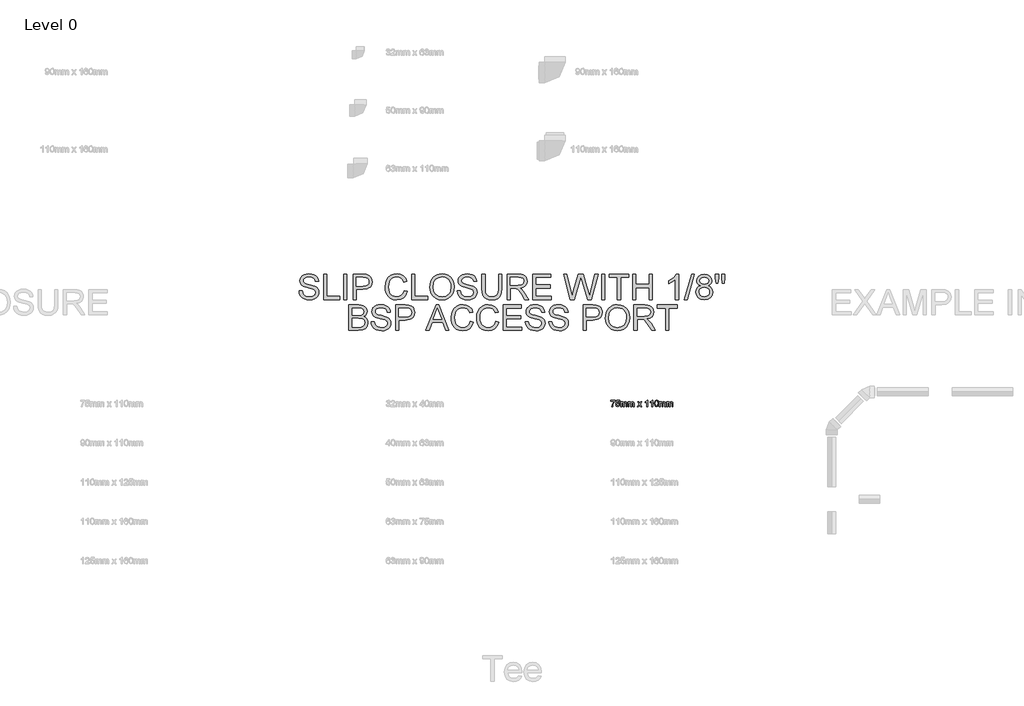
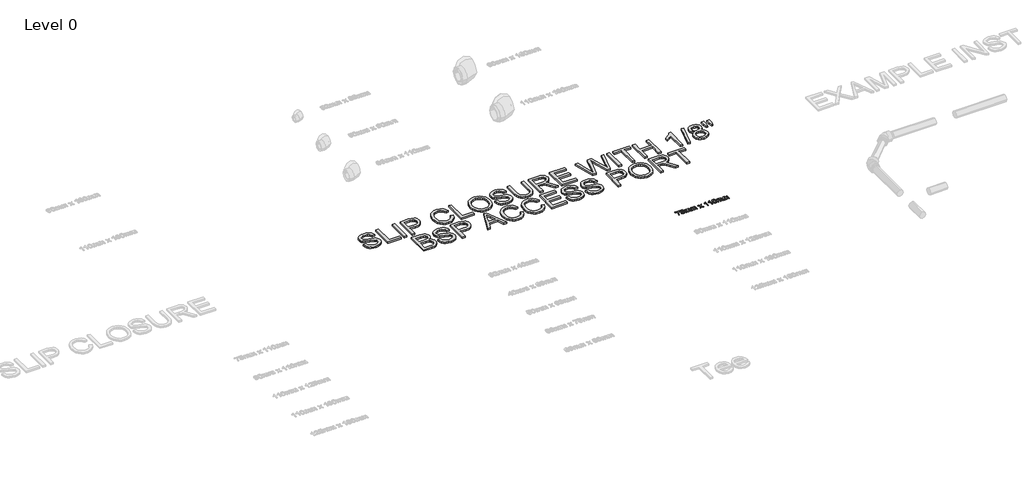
# One storey, part 14 of 21: 2 proxies.
"""IFC4 building model written with IfcOpenShell, lengths in millimetres."""

from ifc_helpers import new_model, si_unit, origin, origin_with_axes, place, context, project, spatial, polyline, outline, extrude, element, save

model = new_model("IFC4")

# Units and contexts
model_context = context("Model", 3, world=origin())
ifc_project = project(units=[si_unit("LENGTHUNIT", "METRE", prefix="MILLI")], contexts=[model_context])

# Site, building, storey
site = spatial("IfcSite", under=ifc_project)
building = spatial("IfcBuilding", under=site)
storey = spatial("IfcBuildingStorey", under=building, Name="Level 0", Elevation=0.0)

# Proxies
placement = place(None, origin())
element("IfcBuildingElementProxy", 1, Name="200mm Arial", ObjectType="200mm Arial", at=placement, inside=storey, context=model_context, shape_type="SweptSolid", body=[
    extrude(outline(polyline([(-3927.1502832, -4262.172732), (-3902.0362057, -4262.172732), (-3893.9428018, -4287.311335), (-3885.8126097, -4296.2018166), (-3874.1752759, -4303.2038372), (-3859.9505054, -4307.7471799), (-3844.0580032, -4309.2616274), (-3817.8157543, -4304.6753652), (-3800.868657, -4292.0692755), (-3795.3013762, -4275.2202801), (-3799.4707054, -4259.5485071), (-3805.8228012, -4253.3496955), (-3816.54043, -4248.1441653), (-3853.1079003, -4238.5547079), (-3892.4712738, -4226.1693474), (-3904.9731303, -4217.7203243), (-3913.832955, -4207.4809421), (-3919.1120616, -4195.67193), (-3920.8717638, -4182.5140173), (-3918.6951287, -4167.8048689), (-3912.1652233, -4154.0890018), (-3901.4537259, -4142.4639308), (-3886.7323147, -4134.0271704), (-3869.0617162, -4128.8952165), (-3849.5026568, -4127.1845653), (-3828.3126539, -4128.9749243), (-3809.7714013, -4134.3460014), (-3794.5410867, -4143.187432), (-3783.2838976, -4155.3888516), (-3776.1592497, -4170.1899705), (-3773.3265583, -4186.8304994), (-3798.4406358, -4186.8304994), (-3803.0514235, -4171.8454395), (-3812.6654063, -4161.0297088), (-3827.6872545, -4154.4814093), (-3848.5216381, -4152.2986428), (-3869.8465311, -4154.4568838), (-3884.4759718, -4160.9316069), (-3892.9372577, -4170.4597506), (-3895.7576863, -4181.7782533), (-3893.7588608, -4191.4290243), (-3887.7623843, -4199.1913344), (-3873.5866647, -4206.1320414), (-3846.7558045, -4213.2199012), (-3802.3156595, -4225.8259909), (-3787.9989185, -4234.9372016), (-3778.0109224, -4246.182128), (-3772.1432046, -4259.4381425), (-3770.1872986, -4274.582618), (-3772.4375102, -4290.0643186), (-3779.1881448, -4304.6263143), (-3790.163291, -4317.1588276), (-3805.0870372, -4326.5520812), (-3823.0335472, -4332.419799), (-3843.0769846, -4334.3757049), (-3867.6821587, -4332.2665148), (-3887.9340625, -4325.9389445), (-3904.065688, -4315.3684685), (-3916.3100271, -4300.5305614), (-3924.1704391, -4282.4552927), (-3927.1502832, -4262.172732)])), origin_with_axes(), (0.0, 0.0, 1.0), 15.0),
    extrude(outline(polyline([(-3732.5161823, -4331.2364452), (-3732.5161823, -4130.3238249), (-3707.4021048, -4130.3238249), (-3707.4021048, -4306.1223677), (-3606.9457946, -4306.1223677), (-3606.9457946, -4331.2364452), (-3732.5161823, -4331.2364452)])), origin_with_axes(), (0.0, 0.0, 1.0), 15.0),
    extrude(outline(polyline([(-3575.5531977, -4331.2364452), (-3575.5531977, -4130.3238249), (-3550.4391202, -4130.3238249), (-3550.4391202, -4331.2364452), (-3575.5531977, -4331.2364452)])), origin_with_axes(), (0.0, 0.0, 1.0), 15.0),
    extrude(outline(polyline([(-3500.2109651, -4331.2364452), (-3500.2109651, -4130.3238249), (-3425.7516493, -4130.3238249), (-3395.7324785, -4132.2368113), (-3371.3296394, -4141.6300649), (-3362.457552, -4149.9564608), (-3355.5107137, -4161.0542343), (-3351.0225533, -4174.1447019), (-3349.5264999, -4188.4491802), (-3353.5670704, -4212.1285179), (-3365.6887822, -4231.8592556), (-3375.3962683, -4239.6276971), (-3388.3564445, -4245.1765838), (-3424.0348666, -4249.6156932), (-3475.0968875, -4249.6156932), (-3475.0968875, -4331.2364452), (-3500.2109651, -4331.2364452)]), holes=[polyline([(-3475.0968875, -4224.5016157), (-3422.5633386, -4224.5016157), (-3400.2942152, -4222.1962219), (-3385.5789354, -4215.2800404), (-3377.3751669, -4204.1822668), (-3374.6405774, -4189.332097), (-3376.2531268, -4178.0503825), (-3381.090775, -4168.5345015), (-3388.5526482, -4161.3730653), (-3398.0378723, -4157.1546851), (-3423.1519498, -4155.4379025), (-3475.0968875, -4155.4379025), (-3475.0968875, -4224.5016157)])]), origin_with_axes(), (0.0, 0.0, 1.0), 15.0),
    extrude(outline(polyline([(-3095.2464648, -4259.8182872), (-3070.1323873, -4266.2930104), (-3081.7206701, -4295.5580231), (-3099.9063034, -4316.9380984), (-3123.7941076, -4330.0163033), (-3152.4889032, -4334.3757049), (-3181.6190259, -4331.0770297), (-3204.752672, -4321.181004), (-3222.4845842, -4305.0309845), (-3235.409505, -4282.9703275), (-3243.3005738, -4257.0346468), (-3245.93093, -4229.2595562), (-3242.9572172, -4199.9638866), (-3234.0360788, -4174.6658681), (-3219.6334987, -4154.1687096), (-3200.2154608, -4139.2756202), (-3177.1860479, -4130.207329), (-3151.949343, -4127.1845653), (-3124.4133756, -4131.0963771), (-3101.6476115, -4142.8318128), (-3084.3632891, -4161.6673709), (-3073.271647, -4186.8795503), (-3098.3857245, -4192.8637641), (-3107.092265, -4174.5493721), (-3118.9871162, -4161.986202), (-3134.2174308, -4154.7205326), (-3152.9303616, -4152.2986428), (-3174.5005093, -4154.9841814), (-3192.2201587, -4163.0407971), (-3205.6662456, -4175.6223613), (-3214.4157058, -4191.8827455), (-3219.2165658, -4210.2645825), (-3220.8168525, -4229.2105052), (-3218.9222602, -4252.4115964), (-3213.2384834, -4272.4734279), (-3203.5509242, -4288.6295788), (-3189.6449848, -4300.1136285), (-3172.973799, -4306.9746277), (-3154.9905008, -4309.2616274), (-3134.0273585, -4306.1468932), (-3116.5590951, -4296.8026905), (-3103.3705255, -4281.3271212), (-3095.2464648, -4259.8182872)])), origin_with_axes(), (0.0, 0.0, 1.0), 15.0),
    extrude(outline(polyline([(-3035.6005306, -4331.2364452), (-3035.6005306, -4130.3238249), (-3010.4864531, -4130.3238249), (-3010.4864531, -4306.1223677), (-2910.030143, -4306.1223677), (-2910.030143, -4331.2364452), (-3035.6005306, -4331.2364452)])), origin_with_axes(), (0.0, 0.0, 1.0), 15.0),
    extrude(outline(polyline([(-2891.1945848, -4233.4288855), (-2889.5207217, -4209.862978), (-2884.4991325, -4189.0010032), (-2876.1298171, -4170.842961), (-2864.4127756, -4155.3888516), (-2850.0500493, -4143.0494763), (-2833.7436799, -4134.2356368), (-2815.4936672, -4128.9473331), (-2795.3000114, -4127.1845653), (-2768.9473978, -4130.4955032), (-2745.317111, -4140.4283171), (-2725.6967379, -4156.2840311), (-2711.3738656, -4177.3636694), (-2702.6182741, -4202.6494252), (-2699.6997436, -4231.1234916), (-2702.7715582, -4259.9777028), (-2711.9870022, -4285.6190778), (-2726.8371721, -4306.7355044), (-2746.8131644, -4322.0148699), (-2770.2411162, -4331.2854962), (-2795.4471642, -4334.3757049), (-2822.204448, -4330.9605337), (-2845.9696249, -4320.7150202), (-2865.540947, -4304.5650006), (-2879.7166666, -4283.4363113), (-2888.3251052, -4259.1254428), (-2891.1945848, -4233.4288855)]), holes=[polyline([(-2866.0805073, -4233.6741401), (-2861.058918, -4265.1035252), (-2845.9941503, -4289.0526431), (-2823.3510135, -4304.2093813), (-2795.594317, -4309.2616274), (-2767.4329503, -4304.1603304), (-2744.7530253, -4288.8564394), (-2736.0296234, -4277.5839219), (-2729.7986222, -4264.1715575), (-2724.8138211, -4230.9272879), (-2726.9475367, -4208.6949527), (-2733.3486834, -4189.4792498), (-2743.8517144, -4173.7645572), (-2758.2910827, -4162.0352529), (-2775.7102952, -4154.7327953), (-2795.1528586, -4152.2986428), (-2822.1676598, -4156.9891382), (-2845.135759, -4171.0606245), (-2854.2990864, -4182.0097124), (-2860.8443202, -4196.0949943), (-2866.0805073, -4233.6741401)])]), origin_with_axes(), (0.0, 0.0, 1.0), 15.0),
    extrude(outline(polyline([(-2674.585666, -4262.172732), (-2649.4715885, -4262.172732), (-2641.3781846, -4287.311335), (-2633.2479925, -4296.2018166), (-2621.6106587, -4303.2038372), (-2607.3858883, -4307.7471799), (-2591.4933861, -4309.2616274), (-2565.2511371, -4304.6753652), (-2548.3040398, -4292.0692755), (-2542.736759, -4275.2202801), (-2546.9060883, -4259.5485071), (-2553.258184, -4253.3496955), (-2563.9758128, -4248.1441653), (-2600.5432831, -4238.5547079), (-2639.9066566, -4226.1693474), (-2652.4085131, -4217.7203243), (-2661.2683378, -4207.4809421), (-2666.5474445, -4195.67193), (-2668.3071467, -4182.5140173), (-2666.1305115, -4167.8048689), (-2659.6006061, -4154.0890018), (-2648.8891087, -4142.4639308), (-2634.1676975, -4134.0271704), (-2616.497099, -4128.8952165), (-2596.9380396, -4127.1845653), (-2575.7480367, -4128.9749243), (-2557.2067841, -4134.3460014), (-2541.9764695, -4143.187432), (-2530.7192805, -4155.3888516), (-2523.5946325, -4170.1899705), (-2520.7619411, -4186.8304994), (-2545.8760187, -4186.8304994), (-2550.4868063, -4171.8454395), (-2560.1007891, -4161.0297088), (-2575.1226373, -4154.4814093), (-2595.9570209, -4152.2986428), (-2617.2819139, -4154.4568838), (-2631.9113546, -4160.9316069), (-2640.3726405, -4170.4597506), (-2643.1930691, -4181.7782533), (-2641.1942436, -4191.4290243), (-2635.1977671, -4199.1913344), (-2621.0220475, -4206.1320414), (-2594.1911874, -4213.2199012), (-2549.7510423, -4225.8259909), (-2535.4343014, -4234.9372016), (-2525.4463052, -4246.182128), (-2519.5785874, -4259.4381425), (-2517.6226814, -4274.582618), (-2519.872893, -4290.0643186), (-2526.6235276, -4304.6263143), (-2537.5986738, -4317.1588276), (-2552.52242, -4326.5520812), (-2570.46893, -4332.419799), (-2590.5123674, -4334.3757049), (-2615.1175415, -4332.2665148), (-2635.3694454, -4325.9389445), (-2651.5010708, -4315.3684685), (-2663.7454099, -4300.5305614), (-2671.6058219, -4282.4552927), (-2674.585666, -4262.172732)])), origin_with_axes(), (0.0, 0.0, 1.0), 15.0),
    extrude(outline(polyline([(-2348.1026581, -4130.3238249), (-2322.9885805, -4130.3238249), (-2322.9885805, -4246.2311789), (-2324.6931004, -4273.3747388), (-2329.8066602, -4294.2765675), (-2339.3593293, -4310.4020616), (-2354.3811774, -4323.2166178), (-2374.9089928, -4331.5859331), (-2400.9795635, -4334.3757049), (-2426.4799171, -4331.9476838), (-2446.866711, -4324.6636203), (-2462.1460766, -4312.7749005), (-2472.3241451, -4296.5329104), (-2478.0447101, -4274.7481649), (-2479.9515651, -4246.2311789), (-2479.9515651, -4130.3238249), (-2454.8374876, -4130.3238249), (-2454.8374876, -4245.3482621), (-2453.5989515, -4267.9178225), (-2449.8833434, -4283.6325151), (-2443.1511029, -4294.5156908), (-2432.8626697, -4302.5907006), (-2419.4472397, -4307.5938957), (-2403.3340083, -4309.2616274), (-2377.7907351, -4305.9629522), (-2360.8068496, -4296.0669265), (-2351.278706, -4276.78991), (-2348.1026581, -4245.3482621), (-2348.1026581, -4130.3238249)])), origin_with_axes(), (0.0, 0.0, 1.0), 15.0),
    extrude(outline(polyline([(-2279.0389448, -4331.2364452), (-2279.0389448, -4130.3238249), (-2192.4640486, -4130.3238249), (-2169.1955124, -4131.678857), (-2152.2668093, -4135.743953), (-2139.8937115, -4143.2487457), (-2130.2919914, -4154.9228677), (-2124.129968, -4169.3990242), (-2122.0759602, -4185.3099205), (-2125.4788687, -4205.1019718), (-2135.687594, -4221.5095088), (-2153.0087046, -4233.5392501), (-2177.7487688, -4240.1979142), (-2163.4749474, -4250.9400684), (-2143.1188103, -4276.78991), (-2109.6170233, -4331.2364452), (-2138.8023283, -4331.2364452), (-2164.9464754, -4289.5922034), (-2183.8310845, -4262.0255792), (-2197.0993618, -4249.0025566), (-2209.0432639, -4244.2200907), (-2223.6113909, -4243.3371739), (-2253.9248673, -4243.3371739), (-2253.9248673, -4331.2364452), (-2279.0389448, -4331.2364452)]), holes=[polyline([(-2253.9248673, -4218.2230963), (-2197.7124984, -4218.2230963), (-2169.0422283, -4214.6669037), (-2159.6121865, -4210.0438533), (-2152.7573186, -4203.2870873), (-2147.1900378, -4186.2418882), (-2149.8449195, -4173.9914178), (-2157.8095647, -4164.1199176), (-2171.513169, -4157.6084063), (-2191.3849281, -4155.4379025), (-2253.9248673, -4155.4379025), (-2253.9248673, -4218.2230963)])]), origin_with_axes(), (0.0, 0.0, 1.0), 15.0),
    extrude(outline(polyline([(-2078.1263245, -4331.2364452), (-2078.1263245, -4130.3238249), (-1933.7203787, -4130.3238249), (-1933.7203787, -4155.4379025), (-2053.012247, -4155.4379025), (-2053.012247, -4215.0838366), (-1939.9988981, -4215.0838366), (-1939.9988981, -4240.1979142), (-2053.012247, -4240.1979142), (-2053.012247, -4306.1223677), (-1930.581119, -4306.1223677), (-1930.581119, -4331.2364452), (-2078.1263245, -4331.2364452)])), origin_with_axes(), (0.0, 0.0, 1.0), 15.0),
    extrude(outline(polyline([(-1778.4741767, -4331.2364452), (-1833.2640685, -4130.3238249), (-1807.3651761, -4130.3238249), (-1775.5801717, -4262.3689357), (-1765.7699852, -4303.1302608), (-1755.2730856, -4267.0778253), (-1715.4437282, -4130.3238249), (-1678.1159684, -4130.3238249), (-1649.1759182, -4229.4557599), (-1627.6425587, -4303.1302608), (-1618.1266778, -4263.5461581), (-1586.0473678, -4130.3238249), (-1560.1484753, -4130.3238249), (-1614.9874181, -4331.2364452), (-1641.8182783, -4331.2364452), (-1689.9862942, -4176.2354979), (-1696.7062719, -4154.6040366), (-1704.2601156, -4180.6500819), (-1748.1607003, -4331.2364452), (-1778.4741767, -4331.2364452)])), origin_with_axes(), (0.0, 0.0, 1.0), 15.0),
    extrude(outline(polyline([(-1531.8951381, -4331.2364452), (-1531.8951381, -4130.3238249), (-1506.7810606, -4130.3238249), (-1506.7810606, -4331.2364452), (-1531.8951381, -4331.2364452)])), origin_with_axes(), (0.0, 0.0, 1.0), 15.0),
    extrude(outline(polyline([(-1406.3247504, -4331.2364452), (-1406.3247504, -4155.4379025), (-1472.2492039, -4155.4379025), (-1472.2492039, -4130.3238249), (-1315.2862193, -4130.3238249), (-1315.2862193, -4155.4379025), (-1381.2106729, -4155.4379025), (-1381.2106729, -4331.2364452), (-1406.3247504, -4331.2364452)])), origin_with_axes(), (0.0, 0.0, 1.0), 15.0),
    extrude(outline(polyline([(-1287.0328821, -4331.2364452), (-1287.0328821, -4130.3238249), (-1261.9188046, -4130.3238249), (-1261.9188046, -4211.9445769), (-1155.183975, -4211.9445769), (-1155.183975, -4130.3238249), (-1130.0698975, -4130.3238249), (-1130.0698975, -4331.2364452), (-1155.183975, -4331.2364452), (-1155.183975, -4237.0586545), (-1261.9188046, -4237.0586545), (-1261.9188046, -4331.2364452), (-1287.0328821, -4331.2364452)])), origin_with_axes(), (0.0, 0.0, 1.0), 15.0),
    extrude(outline(polyline([(-922.8787578, -4331.2364452), (-947.9928353, -4331.2364452), (-947.9928353, -4174.6658681), (-971.7825377, -4191.6129653), (-998.2209904, -4204.2926314), (-998.2209904, -4180.55198), (-961.4082654, -4157.0565833), (-947.937653, -4143.4817376), (-939.0655656, -4130.3238249), (-922.8787578, -4130.3238249), (-922.8787578, -4331.2364452)])), origin_with_axes(), (0.0, 0.0, 1.0), 15.0),
    extrude(outline(polyline([(-875.7898624, -4331.2364452), (-819.283188, -4130.3238249), (-796.6216571, -4130.3238249), (-853.1283315, -4331.2364452), (-875.7898624, -4331.2364452)])), origin_with_axes(), (0.0, 0.0, 1.0), 15.0),
    extrude(outline(polyline([(-748.1593356, -4220.5775411), (-761.6054225, -4213.9556652), (-771.0415957, -4204.9793445), (-776.6150079, -4193.83252), (-778.472812, -4180.6991328), (-774.42611, -4161.066497), (-762.2860042, -4144.842901), (-743.4136578, -4133.953594), (-719.1702343, -4130.3238249), (-694.7796581, -4134.0394331), (-675.6620571, -4145.1862576), (-663.301222, -4161.6673709), (-659.1809437, -4181.3858459), (-661.0142223, -4194.0961688), (-666.5140581, -4205.0529209), (-675.7417648, -4213.9740593), (-688.7586561, -4220.5775411), (-673.3014809, -4228.5421863), (-662.0504232, -4240.2714906), (-655.189424, -4255.2013682), (-652.9024243, -4272.7677335), (-657.4396356, -4296.778165), (-671.0512694, -4316.6192673), (-692.069594, -4329.9365955), (-718.8268778, -4334.3757049), (-745.5841616, -4329.9182014), (-766.6024863, -4316.5456909), (-780.2141201, -4296.5145163), (-784.7513314, -4272.0810204), (-782.3723611, -4253.8340735), (-775.2354504, -4238.8244881), (-763.7084812, -4227.567299), (-748.1593356, -4220.5775411)]), holes=[polyline([(-753.3587344, -4181.4348968), (-751.1330484, -4192.3977803), (-744.4559902, -4201.1533718), (-733.5237635, -4206.8923309), (-718.5325722, -4208.8053173), (-703.8908688, -4206.9045936), (-693.1241891, -4201.2024227), (-686.5023132, -4192.7411368), (-684.2950212, -4182.5630683), (-686.5758896, -4171.9987236), (-693.4184947, -4163.2615262), (-704.3323272, -4157.3938084), (-718.8268778, -4155.4379025), (-733.4133989, -4157.3508889), (-744.3088374, -4163.089848), (-751.0962602, -4171.5020829), (-753.3587344, -4181.4348968)]), polyline([(-759.6372538, -4271.1981036), (-755.4433991, -4290.1072382), (-749.6369949, -4298.2190362), (-740.6054919, -4304.2584323), (-718.6306741, -4309.2616274), (-701.536424, -4306.6312711), (-688.7096051, -4298.7402023), (-680.6897777, -4286.7901689), (-678.0165018, -4271.9829186), (-680.7756168, -4256.9242822), (-689.0529617, -4244.7106), (-702.1740862, -4236.6171961), (-719.4645399, -4233.9193948), (-736.3196667, -4236.5804079), (-749.0177269, -4244.5634472), (-756.9823721, -4256.5441375), (-759.6372538, -4271.1981036)])]), origin_with_axes(), (0.0, 0.0, 1.0), 15.0),
    extrude(outline(polyline([(-574.7152376, -4202.5267979), (-580.6994514, -4163.7275101), (-580.6994514, -4130.3238249), (-555.5853738, -4130.3238249), (-555.5853738, -4163.7275101), (-561.4714857, -4202.5267979), (-574.7152376, -4202.5267979)])), origin_with_axes(), (0.0, 0.0, 1.0), 15.0),
    extrude(outline(polyline([(-624.7962399, -4202.5267979), (-630.9276064, -4163.7275101), (-630.9276064, -4130.3238249), (-605.8135289, -4130.3238249), (-605.8135289, -4163.7275101), (-611.3072334, -4202.5267979), (-624.7962399, -4202.5267979)])), origin_with_axes(), (0.0, 0.0, 1.0), 15.0),
    extrude(outline(polyline([(-3533.1731919, -4575.1860809), (-3533.1731919, -4374.2734606), (-3456.5065841, -4374.2734606), (-3435.4208144, -4375.75112), (-3418.9580951, -4380.184098), (-3406.3397427, -4387.6827594), (-3396.7870735, -4398.3574686), (-3390.7722029, -4410.9145074), (-3388.767246, -4424.0601573), (-3390.4533718, -4436.1573436), (-3395.5117493, -4447.5310286), (-3403.9791665, -4457.4822366), (-3415.8924118, -4465.3119917), (-3401.6615099, -4472.743208), (-3391.1462163, -4484.049448), (-3384.653099, -4498.4826849), (-3382.4887266, -4515.2948921), (-3388.399364, -4542.2974306), (-3403.0410674, -4561.5253962), (-3424.8932579, -4571.7279902), (-3457.0951953, -4575.1860809), (-3533.1731919, -4575.1860809)]), holes=[polyline([(-3508.0591143, -4455.8942126), (-3462.1964923, -4455.8942126), (-3435.414683, -4453.7359716), (-3419.3014516, -4444.4408198), (-3413.8813236, -4428.0823338), (-3418.9335696, -4411.6993223), (-3433.4035948, -4402.0117631), (-3465.6791085, -4399.3875382), (-3508.0591143, -4399.3875382), (-3508.0591143, -4455.8942126)]), polyline([(-3508.0591143, -4550.0720034), (-3456.555635, -4550.0720034), (-3437.9162806, -4549.0909847), (-3422.1464057, -4543.6218057), (-3411.698557, -4532.4627186), (-3407.6028042, -4515.5401468), (-3412.4097956, -4496.0178756), (-3418.7067091, -4488.9606726), (-3427.9834667, -4484.3682791), (-3459.0081816, -4481.0082902), (-3508.0591143, -4481.0082902), (-3508.0591143, -4550.0720034)])]), origin_with_axes(), (0.0, 0.0, 1.0), 15.0),
    extrude(outline(polyline([(-3357.3746491, -4506.1223677), (-3332.2605716, -4506.1223677), (-3324.1671677, -4531.2609707), (-3316.0369756, -4540.1514523), (-3304.3996418, -4547.1534729), (-3290.1748713, -4551.6968155), (-3274.2823691, -4553.2112631), (-3248.0401201, -4548.6250009), (-3231.0930229, -4536.0189112), (-3225.525742, -4519.1699158), (-3229.6950713, -4503.4981428), (-3236.0471671, -4497.2993312), (-3246.7647959, -4492.093801), (-3283.3322662, -4482.5043436), (-3322.6956397, -4470.1189831), (-3335.1974962, -4461.66996), (-3344.0573209, -4451.4305778), (-3349.3364275, -4439.6215657), (-3351.0961297, -4426.463653), (-3348.9194946, -4411.7545046), (-3342.3895892, -4398.0386375), (-3331.6780917, -4386.4135665), (-3316.9566806, -4377.9768061), (-3299.2860821, -4372.8448522), (-3279.7270226, -4371.1342009), (-3258.5370197, -4372.92456), (-3239.9957672, -4378.2956371), (-3224.7654526, -4387.1370677), (-3213.5082635, -4399.3384872), (-3206.3836155, -4414.1396062), (-3203.5509242, -4430.7801351), (-3228.6650017, -4430.7801351), (-3233.2757894, -4415.7950752), (-3242.8897722, -4404.9793445), (-3257.9116203, -4398.431045), (-3278.746004, -4396.2482785), (-3300.070897, -4398.4065195), (-3314.7003377, -4404.8812426), (-3323.1616235, -4414.4093863), (-3325.9820522, -4425.727889), (-3323.9832267, -4435.37866), (-3317.9867501, -4443.1409701), (-3303.8110306, -4450.0816771), (-3276.9801704, -4457.1695369), (-3232.5400254, -4469.7756266), (-3218.2232844, -4478.8868373), (-3208.2352882, -4490.1317637), (-3202.3675704, -4503.3877782), (-3200.4116645, -4518.5322537), (-3202.661876, -4534.0139543), (-3209.4125106, -4548.57595), (-3220.3876568, -4561.1084633), (-3235.3114031, -4570.5017169), (-3253.2579131, -4576.3694347), (-3273.3013505, -4578.3253406), (-3297.9065246, -4576.2161505), (-3318.1584284, -4569.8885802), (-3334.2900539, -4559.3181042), (-3346.534393, -4544.4801971), (-3354.3948049, -4526.4049284), (-3357.3746491, -4506.1223677)])), origin_with_axes(), (0.0, 0.0, 1.0), 15.0),
    extrude(outline(polyline([(-3162.7405482, -4575.1860809), (-3162.7405482, -4374.2734606), (-3088.2812324, -4374.2734606), (-3058.2620615, -4376.186447), (-3033.8592225, -4385.5797006), (-3024.9871351, -4393.9060964), (-3018.0402967, -4405.00387), (-3013.5521364, -4418.0943376), (-3012.056083, -4432.3988159), (-3016.0966535, -4456.0781536), (-3028.2183653, -4475.8088913), (-3037.9258514, -4483.5773328), (-3050.8860275, -4489.1262195), (-3086.5644497, -4493.5653289), (-3137.6264706, -4493.5653289), (-3137.6264706, -4575.1860809), (-3162.7405482, -4575.1860809)]), holes=[polyline([(-3137.6264706, -4468.4512514), (-3085.0929217, -4468.4512514), (-3062.8237983, -4466.1458576), (-3048.1085185, -4459.2296761), (-3039.90475, -4448.1319025), (-3037.1701605, -4433.2817327), (-3038.7827099, -4422.0000181), (-3043.6203581, -4412.4841372), (-3051.0822313, -4405.322701), (-3060.5674554, -4401.1043208), (-3085.6815329, -4399.3875382), (-3137.6264706, -4399.3875382), (-3137.6264706, -4468.4512514)])]), origin_with_axes(), (0.0, 0.0, 1.0), 15.0),
    extrude(outline(polyline([(-2922.4400289, -4575.1860809), (-2842.241754, -4374.2734606), (-2820.8555473, -4374.2734606), (-2740.6572724, -4575.1860809), (-2767.193827, -4575.1860809), (-2790.1987144, -4512.4008871), (-2872.9476378, -4512.4008871), (-2895.9034743, -4575.1860809), (-2922.4400289, -4575.1860809)]), holes=[polyline([(-2863.7260625, -4487.2868096), (-2799.3712388, -4487.2868096), (-2817.471033, -4437.8925203), (-2831.5486507, -4399.3875382), (-2844.0566385, -4433.5760383), (-2863.7260625, -4487.2868096)])]), origin_with_axes(), (0.0, 0.0, 1.0), 15.0),
    extrude(outline(polyline([(-2572.559726, -4503.7679229), (-2547.4456485, -4510.2426461), (-2559.0339314, -4539.5076588), (-2577.2195647, -4560.8877341), (-2601.1073689, -4573.965939), (-2629.8021645, -4578.3253406), (-2658.9322872, -4575.0266654), (-2682.0659333, -4565.1306397), (-2699.7978454, -4548.9806201), (-2712.7227662, -4526.9199632), (-2720.613835, -4500.9842825), (-2723.2441913, -4473.2091919), (-2720.2704785, -4443.9135223), (-2711.3493401, -4418.6155038), (-2696.94676, -4398.1183453), (-2677.528722, -4383.2252559), (-2654.4993091, -4374.1569647), (-2629.2626042, -4371.1342009), (-2601.7266369, -4375.0460128), (-2578.9608728, -4386.7814485), (-2561.6765504, -4405.6170066), (-2550.5849082, -4430.829186), (-2575.6989857, -4436.8133998), (-2584.4055263, -4418.4990078), (-2596.3003775, -4405.9358377), (-2611.5306921, -4398.6701683), (-2630.2436229, -4396.2482785), (-2651.8137705, -4398.933817), (-2669.53342, -4406.9904327), (-2682.9795069, -4419.571997), (-2691.728967, -4435.8323812), (-2696.5298271, -4454.2142182), (-2698.1301137, -4473.1601409), (-2696.2355215, -4496.3612321), (-2690.5517446, -4516.4230636), (-2680.8641854, -4532.5792145), (-2666.958246, -4544.0632641), (-2650.2870603, -4550.9242634), (-2632.3037621, -4553.2112631), (-2611.3406197, -4550.0965289), (-2593.8723563, -4540.7523262), (-2580.6837868, -4525.2767569), (-2572.559726, -4503.7679229)])), origin_with_axes(), (0.0, 0.0, 1.0), 15.0),
    extrude(outline(polyline([(-2371.6471057, -4503.7679229), (-2346.5330282, -4510.2426461), (-2358.1213111, -4539.5076588), (-2376.3069444, -4560.8877341), (-2400.1947486, -4573.965939), (-2428.8895442, -4578.3253406), (-2458.0196669, -4575.0266654), (-2481.153313, -4565.1306397), (-2498.8852251, -4548.9806201), (-2511.8101459, -4526.9199632), (-2519.7012147, -4500.9842825), (-2522.331571, -4473.2091919), (-2519.3578582, -4443.9135223), (-2510.4367198, -4418.6155038), (-2496.0341397, -4398.1183453), (-2476.6161017, -4383.2252559), (-2453.5866888, -4374.1569647), (-2428.3499839, -4371.1342009), (-2400.8140166, -4375.0460128), (-2378.0482525, -4386.7814485), (-2360.7639301, -4405.6170066), (-2349.6722879, -4430.829186), (-2374.7863654, -4436.8133998), (-2383.492906, -4418.4990078), (-2395.3877572, -4405.9358377), (-2410.6180718, -4398.6701683), (-2429.3310026, -4396.2482785), (-2450.9011502, -4398.933817), (-2468.6207997, -4406.9904327), (-2482.0668866, -4419.571997), (-2490.8163467, -4435.8323812), (-2495.6172068, -4454.2142182), (-2497.2174934, -4473.1601409), (-2495.3229012, -4496.3612321), (-2489.6391243, -4516.4230636), (-2479.9515651, -4532.5792145), (-2466.0456257, -4544.0632641), (-2449.37444, -4550.9242634), (-2431.3911418, -4553.2112631), (-2410.4279994, -4550.0965289), (-2392.959736, -4540.7523262), (-2379.7711665, -4525.2767569), (-2371.6471057, -4503.7679229)])), origin_with_axes(), (0.0, 0.0, 1.0), 15.0),
    extrude(outline(polyline([(-2312.0011716, -4575.1860809), (-2312.0011716, -4374.2734606), (-2167.5952258, -4374.2734606), (-2167.5952258, -4399.3875382), (-2286.8870941, -4399.3875382), (-2286.8870941, -4459.0334723), (-2173.8737451, -4459.0334723), (-2173.8737451, -4484.1475499), (-2286.8870941, -4484.1475499), (-2286.8870941, -4550.0720034), (-2164.4559661, -4550.0720034), (-2164.4559661, -4575.1860809), (-2312.0011716, -4575.1860809)])), origin_with_axes(), (0.0, 0.0, 1.0), 15.0),
    extrude(outline(polyline([(-2136.2026288, -4506.1223677), (-2111.0885513, -4506.1223677), (-2102.9951474, -4531.2609707), (-2094.8649553, -4540.1514523), (-2083.2276215, -4547.1534729), (-2069.0028511, -4551.6968155), (-2053.1103489, -4553.2112631), (-2026.8680999, -4548.6250009), (-2009.9210026, -4536.0189112), (-2004.3537218, -4519.1699158), (-2008.523051, -4503.4981428), (-2014.8751468, -4497.2993312), (-2025.5927756, -4492.093801), (-2062.1602459, -4482.5043436), (-2101.5236194, -4470.1189831), (-2114.0254759, -4461.66996), (-2122.8853006, -4451.4305778), (-2128.1644072, -4439.6215657), (-2129.9241095, -4426.463653), (-2127.7474743, -4411.7545046), (-2121.2175689, -4398.0386375), (-2110.5060715, -4386.4135665), (-2095.7846603, -4377.9768061), (-2078.1140618, -4372.8448522), (-2058.5550024, -4371.1342009), (-2037.3649995, -4372.92456), (-2018.8237469, -4378.2956371), (-2003.5934323, -4387.1370677), (-1992.3362433, -4399.3384872), (-1985.2115953, -4414.1396062), (-1982.3789039, -4430.7801351), (-2007.4929815, -4430.7801351), (-2012.1037691, -4415.7950752), (-2021.7177519, -4404.9793445), (-2036.7396001, -4398.431045), (-2057.5739837, -4396.2482785), (-2078.8988767, -4398.4065195), (-2093.5283174, -4404.8812426), (-2101.9896033, -4414.4093863), (-2104.8100319, -4425.727889), (-2102.8112064, -4435.37866), (-2096.8147299, -4443.1409701), (-2082.6390103, -4450.0816771), (-2055.8081502, -4457.1695369), (-2011.3680051, -4469.7756266), (-1997.0512642, -4478.8868373), (-1987.063268, -4490.1317637), (-1981.1955502, -4503.3877782), (-1979.2396442, -4518.5322537), (-1981.4898558, -4534.0139543), (-1988.2404904, -4548.57595), (-1999.2156366, -4561.1084633), (-2014.1393828, -4570.5017169), (-2032.0858928, -4576.3694347), (-2052.1293302, -4578.3253406), (-2076.7345043, -4576.2161505), (-2096.9864082, -4569.8885802), (-2113.1180336, -4559.3181042), (-2125.3623727, -4544.4801971), (-2133.2227847, -4526.4049284), (-2136.2026288, -4506.1223677)])), origin_with_axes(), (0.0, 0.0, 1.0), 15.0),
    extrude(outline(polyline([(-1950.986307, -4506.1223677), (-1925.8722295, -4506.1223677), (-1917.7788256, -4531.2609707), (-1909.6486335, -4540.1514523), (-1898.0112997, -4547.1534729), (-1883.7865292, -4551.6968155), (-1867.894027, -4553.2112631), (-1841.651778, -4548.6250009), (-1824.7046808, -4536.0189112), (-1819.1373999, -4519.1699158), (-1823.3067292, -4503.4981428), (-1829.658825, -4497.2993312), (-1840.3764538, -4492.093801), (-1876.9439241, -4482.5043436), (-1916.3072976, -4470.1189831), (-1928.8091541, -4461.66996), (-1937.6689788, -4451.4305778), (-1942.9480854, -4439.6215657), (-1944.7077876, -4426.463653), (-1942.5311525, -4411.7545046), (-1936.0012471, -4398.0386375), (-1925.2897496, -4386.4135665), (-1910.5683385, -4377.9768061), (-1892.89774, -4372.8448522), (-1873.3386805, -4371.1342009), (-1852.1486776, -4372.92456), (-1833.6074251, -4378.2956371), (-1818.3771105, -4387.1370677), (-1807.1199214, -4399.3384872), (-1799.9952734, -4414.1396062), (-1797.1625821, -4430.7801351), (-1822.2766596, -4430.7801351), (-1826.8874473, -4415.7950752), (-1836.5014301, -4404.9793445), (-1851.5232782, -4398.431045), (-1872.3576619, -4396.2482785), (-1893.6825549, -4398.4065195), (-1908.3119956, -4404.8812426), (-1916.7732814, -4414.4093863), (-1919.5937101, -4425.727889), (-1917.5948846, -4435.37866), (-1911.598408, -4443.1409701), (-1897.4226885, -4450.0816771), (-1870.5918283, -4457.1695369), (-1826.1516833, -4469.7756266), (-1811.8349423, -4478.8868373), (-1801.8469462, -4490.1317637), (-1795.9792283, -4503.3877782), (-1794.0233224, -4518.5322537), (-1796.2735339, -4534.0139543), (-1803.0241685, -4548.57595), (-1813.9993147, -4561.1084633), (-1828.923061, -4570.5017169), (-1846.869571, -4576.3694347), (-1866.9130084, -4578.3253406), (-1891.5181825, -4576.2161505), (-1911.7700863, -4569.8885802), (-1927.9017118, -4559.3181042), (-1940.1460509, -4544.4801971), (-1948.0064628, -4526.4049284), (-1950.986307, -4506.1223677)])), origin_with_axes(), (0.0, 0.0, 1.0), 15.0),
    extrude(outline(polyline([(-1677.8707138, -4575.1860809), (-1677.8707138, -4374.2734606), (-1603.411398, -4374.2734606), (-1573.3922271, -4376.186447), (-1548.9893881, -4385.5797006), (-1540.1173007, -4393.9060964), (-1533.1704623, -4405.00387), (-1528.682302, -4418.0943376), (-1527.1862486, -4432.3988159), (-1531.2268191, -4456.0781536), (-1543.3485309, -4475.8088913), (-1553.056017, -4483.5773328), (-1566.0161931, -4489.1262195), (-1601.6946153, -4493.5653289), (-1652.7566362, -4493.5653289), (-1652.7566362, -4575.1860809), (-1677.8707138, -4575.1860809)]), holes=[polyline([(-1652.7566362, -4468.4512514), (-1600.2230873, -4468.4512514), (-1577.9539639, -4466.1458576), (-1563.2386841, -4459.2296761), (-1555.0349156, -4448.1319025), (-1552.3003261, -4433.2817327), (-1553.9128755, -4422.0000181), (-1558.7505237, -4412.4841372), (-1566.2123969, -4405.322701), (-1575.697621, -4401.1043208), (-1600.8116985, -4399.3875382), (-1652.7566362, -4399.3875382), (-1652.7566362, -4468.4512514)])]), origin_with_axes(), (0.0, 0.0, 1.0), 15.0),
    extrude(outline(polyline([(-1502.072171, -4477.3785212), (-1500.3983079, -4453.8126137), (-1495.3767187, -4432.9506389), (-1487.0074033, -4414.7925967), (-1475.2903618, -4399.3384872), (-1460.9276355, -4386.999112), (-1444.6212661, -4378.1852725), (-1426.3712535, -4372.8969688), (-1406.1775976, -4371.1342009), (-1379.824984, -4374.4451389), (-1356.1946972, -4384.3779528), (-1336.5743241, -4400.2336668), (-1322.2514518, -4421.3133051), (-1313.4958603, -4446.5990609), (-1310.5773298, -4475.0731273), (-1313.6491445, -4503.9273385), (-1322.8645884, -4529.5687135), (-1337.7147583, -4550.6851401), (-1357.6907506, -4565.9645056), (-1381.1187024, -4575.2351319), (-1406.3247504, -4578.3253406), (-1433.0820342, -4574.9101694), (-1456.8472111, -4564.6646559), (-1476.4185332, -4548.5146363), (-1490.5942528, -4527.385947), (-1499.2026915, -4503.0750785), (-1502.072171, -4477.3785212)]), holes=[polyline([(-1476.9580935, -4477.6237758), (-1471.9365042, -4509.0531609), (-1456.8717365, -4533.0022788), (-1434.2285997, -4548.159017), (-1406.4719032, -4553.2112631), (-1378.3105365, -4548.1099661), (-1355.6306115, -4532.8060751), (-1346.9072097, -4521.5335576), (-1340.6762084, -4508.1211932), (-1335.6914073, -4474.8769236), (-1337.8251229, -4452.6445883), (-1344.2262696, -4433.4288855), (-1354.7293006, -4417.7141929), (-1369.1686689, -4405.9848886), (-1386.5878814, -4398.682431), (-1406.0304448, -4396.2482785), (-1433.045246, -4400.9387739), (-1456.0133452, -4415.0102602), (-1465.1766726, -4425.9593481), (-1471.7219064, -4440.04463), (-1476.9580935, -4477.6237758)])]), origin_with_axes(), (0.0, 0.0, 1.0), 15.0),
    extrude(outline(polyline([(-1276.0454732, -4575.1860809), (-1276.0454732, -4374.2734606), (-1189.470577, -4374.2734606), (-1166.2020408, -4375.6284927), (-1149.2733376, -4379.6935887), (-1136.9002399, -4387.1983814), (-1127.2985198, -4398.8725034), (-1121.1364964, -4413.3486599), (-1119.0824886, -4429.2595562), (-1122.485397, -4449.0516075), (-1132.6941224, -4465.4591445), (-1150.015233, -4477.4888857), (-1174.7552972, -4484.1475499), (-1160.4814758, -4494.8897041), (-1140.1253387, -4520.7395456), (-1106.6235517, -4575.1860809), (-1135.8088566, -4575.1860809), (-1161.9530037, -4533.5418391), (-1180.8376128, -4505.9752149), (-1194.1058901, -4492.9521923), (-1206.0497922, -4488.1697263), (-1220.6179192, -4487.2868096), (-1250.9313956, -4487.2868096), (-1250.9313956, -4575.1860809), (-1276.0454732, -4575.1860809)]), holes=[polyline([(-1250.9313956, -4462.172732), (-1194.7190268, -4462.172732), (-1166.0487566, -4458.6165394), (-1156.6187148, -4453.993489), (-1149.763847, -4447.236723), (-1144.1965661, -4430.1915239), (-1146.8514478, -4417.9410535), (-1154.816093, -4408.0695533), (-1168.5196974, -4401.5580419), (-1188.3914565, -4399.3875382), (-1250.9313956, -4399.3875382), (-1250.9313956, -4462.172732)])]), origin_with_axes(), (0.0, 0.0, 1.0), 15.0),
    extrude(outline(polyline([(-1024.9046978, -4575.1860809), (-1024.9046978, -4399.3875382), (-1090.8291513, -4399.3875382), (-1090.8291513, -4374.2734606), (-933.8661667, -4374.2734606), (-933.8661667, -4399.3875382), (-999.7906203, -4399.3875382), (-999.7906203, -4575.1860809), (-1024.9046978, -4575.1860809)])), origin_with_axes(), (0.0, 0.0, 1.0), 15.0),
])
element("IfcBuildingElementProxy", 2, Name="50mm", ObjectType="50mm", at=placement, inside=storey, context=model_context, shape_type="SweptSolid", body=[
    extrude(outline(polyline([(-1458.2285688, -5135.0464423), (-1458.2285688, -5128.7679229), (-1425.2663421, -5128.7679229), (-1425.2663421, -5133.8446945), (-1434.6166761, -5147.3520951), (-1441.7719809, -5164.5628411), (-1444.1019002, -5178.2112631), (-1450.3804196, -5178.2112631), (-1447.8849534, -5164.0478063), (-1441.0362169, -5148.0388081), (-1431.5448614, -5135.0464423), (-1458.2285688, -5135.0464423)])), origin_with_axes(), (0.0, 0.0, 1.0), 5.0),
    extrude(outline(polyline([(-1419.7726376, -5164.8694094), (-1413.4941182, -5164.0845945), (-1410.3303331, -5170.5531862), (-1403.7697708, -5172.7175586), (-1395.8970961, -5169.7070576), (-1393.0889302, -5161.717887), (-1395.7192865, -5154.2621452), (-1403.6716689, -5151.5275557), (-1409.1837675, -5152.618939), (-1412.7093033, -5155.4516303), (-1418.9878227, -5154.6668154), (-1413.4941182, -5128.7679229), (-1389.1648556, -5128.7679229), (-1389.1648556, -5135.0464423), (-1408.4173467, -5135.0464423), (-1411.1028853, -5148.8788053), (-1401.9180981, -5145.2490363), (-1391.1820752, -5149.7494594), (-1386.8104108, -5161.3254795), (-1390.7467482, -5172.975076), (-1396.3998682, -5177.4908275), (-1403.7942963, -5178.996078), (-1414.8736757, -5175.1271857), (-1419.7726376, -5164.8694094)])), origin_with_axes(), (0.0, 0.0, 1.0), 5.0),
    extrude(outline(polyline([(-1379.7470765, -5178.2112631), (-1379.7470765, -5141.3249617), (-1373.4685571, -5141.3249617), (-1373.4685571, -5147.3950146), (-1369.1520751, -5142.4224763), (-1363.0084457, -5140.5401468), (-1356.7176636, -5142.4592645), (-1353.2595729, -5147.836473), (-1348.360611, -5142.3642283), (-1342.1740621, -5140.5401468), (-1333.9641622, -5143.5751732), (-1331.0885513, -5152.9255073), (-1331.0885513, -5178.2112631), (-1337.3670707, -5178.2112631), (-1337.3670707, -5155.6233086), (-1337.9495505, -5150.3809902), (-1340.0587406, -5147.7996848), (-1343.6455901, -5146.8186662), (-1349.8198762, -5149.3325265), (-1352.2785542, -5157.3891422), (-1352.2785542, -5178.2112631), (-1358.5570736, -5178.2112631), (-1358.5570736, -5154.9243328), (-1360.0102075, -5148.8420171), (-1364.7742793, -5146.8186662), (-1369.4218552, -5148.1675668), (-1372.512064, -5152.1161669), (-1373.4685571, -5159.6086969), (-1373.4685571, -5178.2112631), (-1379.7470765, -5178.2112631)])), origin_with_axes(), (0.0, 0.0, 1.0), 5.0),
    extrude(outline(polyline([(-1321.6707722, -5178.2112631), (-1321.6707722, -5141.3249617), (-1315.3922528, -5141.3249617), (-1315.3922528, -5147.3950146), (-1311.0757708, -5142.4224763), (-1304.9321414, -5140.5401468), (-1298.6413593, -5142.4592645), (-1295.1832686, -5147.836473), (-1290.2843067, -5142.3642283), (-1284.0977578, -5140.5401468), (-1275.8878579, -5143.5751732), (-1273.012247, -5152.9255073), (-1273.012247, -5178.2112631), (-1279.2907664, -5178.2112631), (-1279.2907664, -5155.6233086), (-1279.8732462, -5150.3809902), (-1281.9824363, -5147.7996848), (-1285.5692858, -5146.8186662), (-1291.7435719, -5149.3325265), (-1294.2022499, -5157.3891422), (-1294.2022499, -5178.2112631), (-1300.4807693, -5178.2112631), (-1300.4807693, -5154.9243328), (-1301.9339032, -5148.8420171), (-1306.697975, -5146.8186662), (-1311.3455509, -5148.1675668), (-1314.4357597, -5152.1161669), (-1315.3922528, -5159.6086969), (-1315.3922528, -5178.2112631), (-1321.6707722, -5178.2112631)])), origin_with_axes(), (0.0, 0.0, 1.0), 5.0),
    extrude(outline(polyline([(-1247.8981695, -5178.2112631), (-1234.4827394, -5159.6700105), (-1247.1133545, -5141.3249617), (-1239.5595109, -5141.3249617), (-1233.4649325, -5150.1541296), (-1230.6199784, -5154.3234589), (-1228.155169, -5150.914419), (-1221.2144621, -5141.3249617), (-1213.6606184, -5141.3249617), (-1226.9288957, -5159.6700105), (-1214.1511278, -5178.2112631), (-1221.7049714, -5178.2112631), (-1229.3937051, -5167.0644386), (-1230.8039194, -5165.0288249), (-1240.3443258, -5178.2112631), (-1247.8981695, -5178.2112631)])), origin_with_axes(), (0.0, 0.0, 1.0), 5.0),
    extrude(outline(polyline([(-1167.0622324, -5178.2112631), (-1173.3407518, -5178.2112631), (-1173.3407518, -5139.0686188), (-1179.2881774, -5143.3053931), (-1185.8977905, -5146.4753096), (-1185.8977905, -5140.5401468), (-1176.6946093, -5134.6662976), (-1171.1089343, -5127.983108), (-1167.0622324, -5127.983108), (-1167.0622324, -5178.2112631)])), origin_with_axes(), (0.0, 0.0, 1.0), 5.0),
    extrude(outline(polyline([(-1128.6063012, -5178.2112631), (-1134.8848205, -5178.2112631), (-1134.8848205, -5139.0686188), (-1140.8322461, -5143.3053931), (-1147.4418593, -5146.4753096), (-1147.4418593, -5140.5401468), (-1138.2386781, -5134.6662976), (-1132.6530031, -5127.983108), (-1128.6063012, -5127.983108), (-1128.6063012, -5178.2112631)])), origin_with_axes(), (0.0, 0.0, 1.0), 5.0),
    extrude(outline(polyline([(-1113.6948176, -5153.5018557), (-1111.8492763, -5139.0502247), (-1106.3678345, -5130.7176975), (-1097.2137042, -5127.983108), (-1089.8805898, -5129.6017888), (-1084.816081, -5134.2677588), (-1081.873025, -5141.6989751), (-1080.7325908, -5153.5018557), (-1082.5597381, -5167.8921731), (-1088.0227857, -5176.2430944), (-1097.2137042, -5178.996078), (-1108.6916225, -5174.2136121), (-1112.4440188, -5165.7186037), (-1113.6948176, -5153.5018557)]), holes=[polyline([(-1107.4162982, -5153.489593), (-1104.4732423, -5169.0816582), (-1097.2137042, -5172.7175586), (-1089.9541662, -5169.0693955), (-1087.0111102, -5153.489593), (-1089.8560643, -5138.0753374), (-1097.2872806, -5134.2616274), (-1104.3751404, -5137.6216163), (-1107.4162982, -5153.489593)])]), origin_with_axes(), (0.0, 0.0, 1.0), 5.0),
    extrude(outline(polyline([(-1073.6692565, -5178.2112631), (-1073.6692565, -5141.3249617), (-1067.3907372, -5141.3249617), (-1067.3907372, -5147.3950146), (-1063.0742551, -5142.4224763), (-1056.9306258, -5140.5401468), (-1050.6398436, -5142.4592645), (-1047.1817529, -5147.836473), (-1042.282791, -5142.3642283), (-1036.0962421, -5140.5401468), (-1027.8863422, -5143.5751732), (-1025.0107313, -5152.9255073), (-1025.0107313, -5178.2112631), (-1031.2892507, -5178.2112631), (-1031.2892507, -5155.6233086), (-1031.8717305, -5150.3809902), (-1033.9809206, -5147.7996848), (-1037.5677701, -5146.8186662), (-1043.7420562, -5149.3325265), (-1046.2007342, -5157.3891422), (-1046.2007342, -5178.2112631), (-1052.4792536, -5178.2112631), (-1052.4792536, -5154.9243328), (-1053.9323875, -5148.8420171), (-1058.6964593, -5146.8186662), (-1063.3440352, -5148.1675668), (-1066.434244, -5152.1161669), (-1067.3907372, -5159.6086969), (-1067.3907372, -5178.2112631), (-1073.6692565, -5178.2112631)])), origin_with_axes(), (0.0, 0.0, 1.0), 5.0),
    extrude(outline(polyline([(-1015.5929522, -5178.2112631), (-1015.5929522, -5141.3249617), (-1009.3144329, -5141.3249617), (-1009.3144329, -5147.3950146), (-1004.9979508, -5142.4224763), (-998.8543215, -5140.5401468), (-992.5635393, -5142.4592645), (-989.1054486, -5147.836473), (-984.2064867, -5142.3642283), (-978.0199378, -5140.5401468), (-969.8100379, -5143.5751732), (-966.934427, -5152.9255073), (-966.934427, -5178.2112631), (-973.2129464, -5178.2112631), (-973.2129464, -5155.6233086), (-973.7954262, -5150.3809902), (-975.9046163, -5147.7996848), (-979.4914658, -5146.8186662), (-985.6657519, -5149.3325265), (-988.1244299, -5157.3891422), (-988.1244299, -5178.2112631), (-994.4029493, -5178.2112631), (-994.4029493, -5154.9243328), (-995.8560832, -5148.8420171), (-1000.620155, -5146.8186662), (-1005.2677309, -5148.1675668), (-1008.3579397, -5152.1161669), (-1009.3144329, -5159.6086969), (-1009.3144329, -5178.2112631), (-1015.5929522, -5178.2112631)])), origin_with_axes(), (0.0, 0.0, 1.0), 5.0),
])

save(model, "model.ifc")
